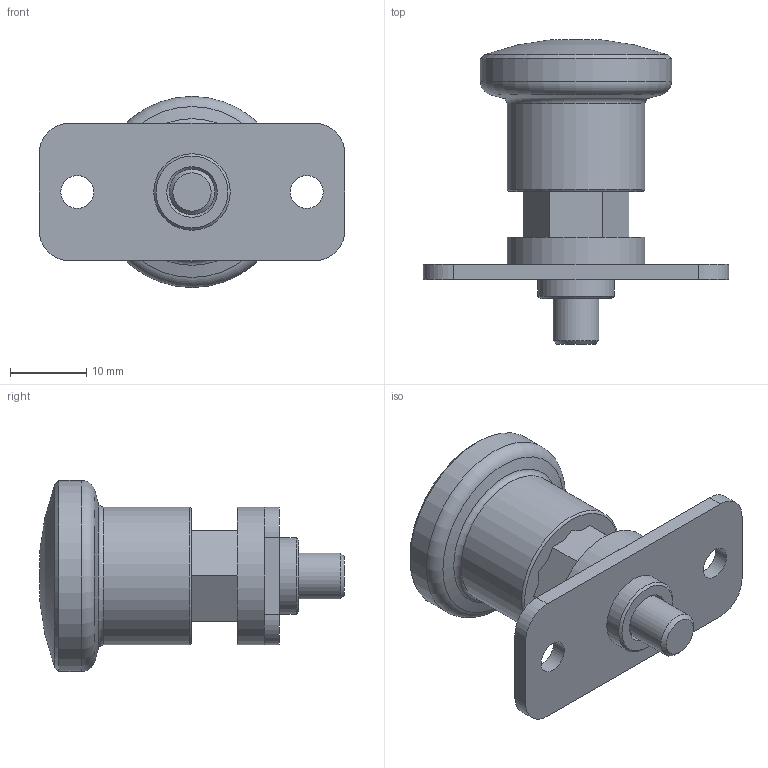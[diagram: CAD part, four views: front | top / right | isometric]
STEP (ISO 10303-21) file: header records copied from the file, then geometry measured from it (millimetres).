
FILE_DESCRIPTION( ( 'STEP AP203' ), '1' );
FILE_NAME( 'C:/Temp/Ganter_Step_05_03_2020/data/3_1/gn822_9/gn822_9_cn/Stainless Steel-Mini indexing plunger GN 822.9-6-12-CN (activated).stp', '2020-03-12T09:25:18', ( 'License CC BY-ND 4.0' ), ( 'CADENAS' ), ' ', 'PARTsolutions', ' ' );
FILE_SCHEMA( ( 'CONFIG_CONTROL_DESIGN' ) );
Length unit declared in the file: millimetre
Products named in the file (3): Stainless Steel-Mini indexing plunger GN 822.9-6-12-CN (activated); _Stainless Steel-Mini indexing plunger GN 822.9-6-12-CN (deactivated)_1; _Stainless Steel-Mini indexing plunger GN 822.9-6-12-CN (deactivated)_2
Assembly tree (2 placements, depth 2):
  Stainless Steel-Mini indexing plunger GN 822.9-6-12-CN (activated)
    _Stainless Steel-Mini indexing plunger GN 822.9-6-12-CN (deactivated)_1
    _Stainless Steel-Mini indexing plunger GN 822.9-6-12-CN (deactivated)_2
Bounding box: 40 x 39.87 x 25 mm (x, y, z)
Volume: 8718.9 mm3; surface area: 6330.3 mm2
Topology: 2 solids, 2 shells, 79 faces, 187 edges, 118 vertices
Faces by surface type: plane 46, cylinder 15, cone 14, torus 3, sphere 1
Full cylindrical faces by diameter (mm): 4 x1, 4.2 x1, 4.3 x2, 6 x2, 10 x1, 12 x1, 18 x2, 25 x1
Entity records: 2308 total; most frequent: CARTESIAN_POINT 476, DIRECTION 354, ORIENTED_EDGE 322, EDGE_CURVE 161, AXIS2_PLACEMENT_3D 129, VERTEX_POINT 115, EDGE_LOOP 114, LINE 96
